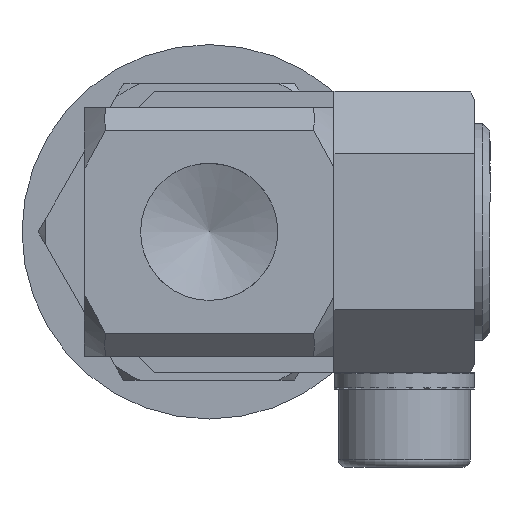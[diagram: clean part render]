
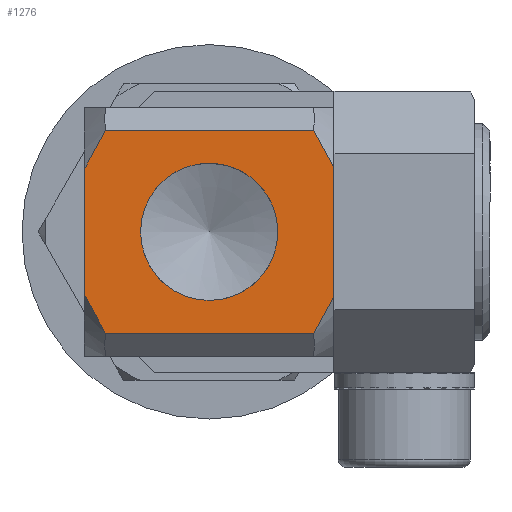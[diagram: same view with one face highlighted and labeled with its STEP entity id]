
A CAD part, front view. The second image highlights one B-rep face of the part: STEP entity #1276.
In plain terms, the highlighted planar face has unit normal (0, -1, 0).
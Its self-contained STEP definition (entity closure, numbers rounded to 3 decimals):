
#1276=ADVANCED_FACE('',(#2470,#2471),#2472,.T.);
#2470=FACE_OUTER_BOUND('',#5632,.T.);
#2471=FACE_BOUND('',#5633,.T.);
#2472=PLANE('',#5634);
#5632=EDGE_LOOP('',(#8612,#8613,#8614,#8615,#8616,#8617,#8618,#8619));
#5633=EDGE_LOOP('',(#8620));
#5634=AXIS2_PLACEMENT_3D('',#8621,#8622,#8623);
#8612=ORIENTED_EDGE('',*,*,#10235,.F.);
#8613=ORIENTED_EDGE('',*,*,#10214,.T.);
#8614=ORIENTED_EDGE('',*,*,#10238,.F.);
#8615=ORIENTED_EDGE('',*,*,#10197,.T.);
#8616=ORIENTED_EDGE('',*,*,#10240,.F.);
#8617=ORIENTED_EDGE('',*,*,#10170,.T.);
#8618=ORIENTED_EDGE('',*,*,#10165,.F.);
#8619=ORIENTED_EDGE('',*,*,#10194,.F.);
#8620=ORIENTED_EDGE('',*,*,#10225,.T.);
#8621=CARTESIAN_POINT('',(-8.0,-8.0,8.0));
#8622=DIRECTION('',(0.0,-1.0,0.0));
#8623=DIRECTION('',(0.0,0.0,-1.0));
#10165=EDGE_CURVE('',#11964,#11965,#11966,.T.);
#10170=EDGE_CURVE('',#11973,#11965,#11974,.T.);
#10194=EDGE_CURVE('',#12010,#11964,#12012,.T.);
#10197=EDGE_CURVE('',#12016,#12014,#12017,.T.);
#10214=EDGE_CURVE('',#12036,#12040,#12042,.T.);
#10225=EDGE_CURVE('',#12059,#12059,#12060,.F.);
#10235=EDGE_CURVE('',#12036,#12010,#12072,.T.);
#10238=EDGE_CURVE('',#12016,#12040,#12075,.T.);
#10240=EDGE_CURVE('',#11973,#12014,#12077,.T.);
#11964=VERTEX_POINT('',#15125);
#11965=VERTEX_POINT('',#15126);
#11966=B_SPLINE_CURVE_WITH_KNOTS('',3,(#15127,#15128,#15129,#15130),.UNSPECIFIED.,.F.,.F.,(4,4),(0.021,0.024),.UNSPECIFIED.);
#11973=VERTEX_POINT('',#15143);
#11974=LINE('',#15144,#15145);
#12010=VERTEX_POINT('',#15197);
#12012=LINE('',#15199,#15200);
#12014=VERTEX_POINT('',#15202);
#12016=VERTEX_POINT('',#15204);
#12017=LINE('',#15205,#15206);
#12036=VERTEX_POINT('',#15232);
#12040=VERTEX_POINT('',#15240);
#12042=LINE('',#15245,#15246);
#12059=VERTEX_POINT('',#15280);
#12060=CIRCLE('',#15281,4.4);
#12072=B_SPLINE_CURVE_WITH_KNOTS('',3,(#15298,#15299,#15300,#15301),.UNSPECIFIED.,.F.,.F.,(4,4),(0.01,0.013),.UNSPECIFIED.);
#12075=B_SPLINE_CURVE_WITH_KNOTS('',3,(#15307,#15308,#15309,#15310),.UNSPECIFIED.,.F.,.F.,(4,4),(0.021,0.024),.UNSPECIFIED.);
#12077=B_SPLINE_CURVE_WITH_KNOTS('',3,(#15312,#15313,#15314,#15315),.UNSPECIFIED.,.F.,.F.,(4,4),(0.01,0.013),.UNSPECIFIED.);
#15125=CARTESIAN_POINT('',(-4.123,-8.0,-8.0));
#15126=CARTESIAN_POINT('',(-6.5,-8.0,-6.692));
#15127=CARTESIAN_POINT('',(-4.123,-8.0,-8.));
#15128=CARTESIAN_POINT('',(-4.952,-8.0,-7.62));
#15129=CARTESIAN_POINT('',(-5.737,-8.0,-7.174));
#15130=CARTESIAN_POINT('',(-6.5,-8.0,-6.692));
#15143=CARTESIAN_POINT('',(-6.5,-8.0,6.646));
#15144=CARTESIAN_POINT('',(-6.5,-8.0,8.0));
#15145=VECTOR('',#17089,1.0);
#15197=CARTESIAN_POINT('',(4.123,-8.0,-8.0));
#15199=CARTESIAN_POINT('',(-8.0,-8.0,-8.0));
#15200=VECTOR('',#17119,1.0);
#15202=CARTESIAN_POINT('',(-4.021,-8.0,8.0));
#15204=CARTESIAN_POINT('',(4.021,-8.0,8.0));
#15205=CARTESIAN_POINT('',(-8.0,-8.0,8.0));
#15206=VECTOR('',#17123,1.0);
#15232=CARTESIAN_POINT('',(6.5,-8.0,-6.692));
#15240=CARTESIAN_POINT('',(6.5,-8.0,6.646));
#15245=CARTESIAN_POINT('',(6.5,-8.0,8.0));
#15246=VECTOR('',#17135,1.0);
#15280=CARTESIAN_POINT('',(0.,-8.0,-4.4));
#15281=AXIS2_PLACEMENT_3D('',#17154,#17155,#17156);
#15298=CARTESIAN_POINT('',(6.5,-8.0,-6.692));
#15299=CARTESIAN_POINT('',(5.735,-8.0,-7.174));
#15300=CARTESIAN_POINT('',(4.95,-8.0,-7.621));
#15301=CARTESIAN_POINT('',(4.123,-8.0,-8.));
#15307=CARTESIAN_POINT('',(4.021,-8.0,8.));
#15308=CARTESIAN_POINT('',(4.887,-8.0,7.611));
#15309=CARTESIAN_POINT('',(5.706,-8.0,7.147));
#15310=CARTESIAN_POINT('',(6.5,-8.0,6.646));
#15312=CARTESIAN_POINT('',(-6.5,-8.0,6.646));
#15313=CARTESIAN_POINT('',(-5.704,-8.0,7.148));
#15314=CARTESIAN_POINT('',(-4.885,-8.0,7.612));
#15315=CARTESIAN_POINT('',(-4.021,-8.0,8.));
#17089=DIRECTION('',(0.0,0.0,-1.0));
#17119=DIRECTION('',(-1.0,0.0,0.0));
#17123=DIRECTION('',(-1.0,0.0,0.0));
#17135=DIRECTION('',(0.0,0.0,1.0));
#17154=CARTESIAN_POINT('',(0.0,-8.0,0.));
#17155=DIRECTION('',(0.0,-1.0,0.0));
#17156=DIRECTION('',(0.0,0.0,-1.0));
